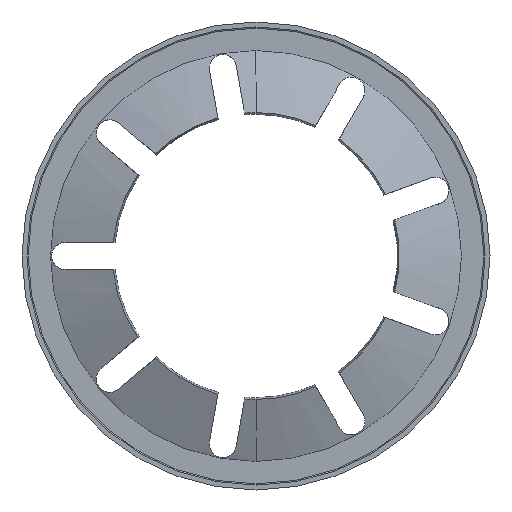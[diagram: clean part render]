
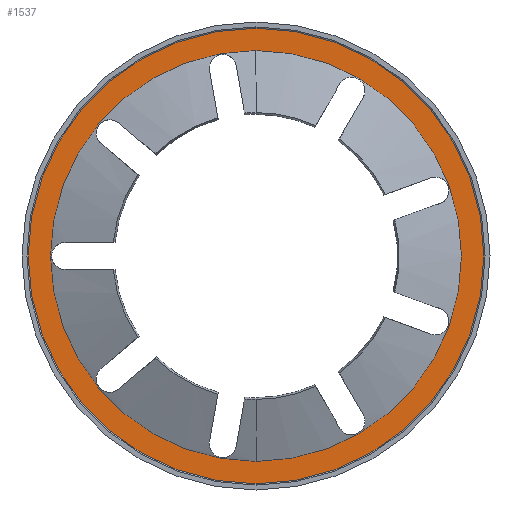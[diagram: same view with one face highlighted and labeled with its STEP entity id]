
A CAD part, left-side view. The second image highlights one B-rep face of the part: STEP entity #1537.
In plain terms, the highlighted planar face has unit normal (-1, 0, 0).
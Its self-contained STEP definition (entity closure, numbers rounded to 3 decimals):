
#18 = CARTESIAN_POINT ( 'NONE',  ( -0.4, 0., -18.5 ) ) ;
#38 = ORIENTED_EDGE ( 'NONE', *, *, #2139, .F. ) ;
#76 = VERTEX_POINT ( 'NONE', #2171 ) ;
#108 = DIRECTION ( 'NONE',  ( 1., 0., 0. ) ) ;
#121 = DIRECTION ( 'NONE',  ( -1., 0., 0. ) ) ;
#201 = EDGE_CURVE ( 'NONE', #1010, #1495, #2131, .T. ) ;
#366 = AXIS2_PLACEMENT_3D ( 'NONE', #413, #761, #1102 ) ;
#413 = CARTESIAN_POINT ( 'NONE',  ( -0.4, 0., 0. ) ) ;
#470 = FACE_OUTER_BOUND ( 'NONE', #896, .T. ) ;
#593 = CARTESIAN_POINT ( 'NONE',  ( -0.4, 0., 0. ) ) ;
#631 = CIRCLE ( 'NONE', #1965, 18.5 ) ;
#688 = PLANE ( 'NONE',  #1077 ) ;
#761 = DIRECTION ( 'NONE',  ( 1., 0., 0. ) ) ;
#809 = DIRECTION ( 'NONE',  ( 0., 0., -1. ) ) ;
#844 = FACE_BOUND ( 'NONE', #1863, .T. ) ;
#896 = EDGE_LOOP ( 'NONE', ( #1930, #38 ) ) ;
#933 = DIRECTION ( 'NONE',  ( 0., 0., -1. ) ) ;
#946 = DIRECTION ( 'NONE',  ( 0., 0., -1. ) ) ;
#963 = CARTESIAN_POINT ( 'NONE',  ( -0.4, 0., -16.676 ) ) ;
#1010 = VERTEX_POINT ( 'NONE', #963 ) ;
#1077 = AXIS2_PLACEMENT_3D ( 'NONE', #1886, #121, #1215 ) ;
#1102 = DIRECTION ( 'NONE',  ( 0., 0., -1. ) ) ;
#1215 = DIRECTION ( 'NONE',  ( 0., 0., 1. ) ) ;
#1300 = CARTESIAN_POINT ( 'NONE',  ( -0.4, 0., 0. ) ) ;
#1371 = EDGE_CURVE ( 'NONE', #2097, #76, #631, .T. ) ;
#1432 = AXIS2_PLACEMENT_3D ( 'NONE', #1874, #108, #809 ) ;
#1444 = ORIENTED_EDGE ( 'NONE', *, *, #201, .T. ) ;
#1482 = DIRECTION ( 'NONE',  ( 1., 0., 0. ) ) ;
#1495 = VERTEX_POINT ( 'NONE', #1735 ) ;
#1537 = ADVANCED_FACE ( 'NONE', ( #844, #470 ), #688, .T. ) ;
#1703 = CIRCLE ( 'NONE', #366, 18.5 ) ;
#1735 = CARTESIAN_POINT ( 'NONE',  ( -0.4, 0., 16.676 ) ) ;
#1821 = DIRECTION ( 'NONE',  ( 1., 0., 0. ) ) ;
#1836 = CIRCLE ( 'NONE', #2110, 16.676 ) ;
#1863 = EDGE_LOOP ( 'NONE', ( #1444, #2307 ) ) ;
#1874 = CARTESIAN_POINT ( 'NONE',  ( -0.4, 0., 0. ) ) ;
#1886 = CARTESIAN_POINT ( 'NONE',  ( -0.4, 18.5, 0. ) ) ;
#1930 = ORIENTED_EDGE ( 'NONE', *, *, #1371, .F. ) ;
#1965 = AXIS2_PLACEMENT_3D ( 'NONE', #593, #1482, #946 ) ;
#2097 = VERTEX_POINT ( 'NONE', #18 ) ;
#2110 = AXIS2_PLACEMENT_3D ( 'NONE', #1300, #1821, #933 ) ;
#2127 = EDGE_CURVE ( 'NONE', #1495, #1010, #1836, .T. ) ;
#2131 = CIRCLE ( 'NONE', #1432, 16.676 ) ;
#2139 = EDGE_CURVE ( 'NONE', #76, #2097, #1703, .T. ) ;
#2171 = CARTESIAN_POINT ( 'NONE',  ( -0.4, 0., 18.5 ) ) ;
#2307 = ORIENTED_EDGE ( 'NONE', *, *, #2127, .T. ) ;
